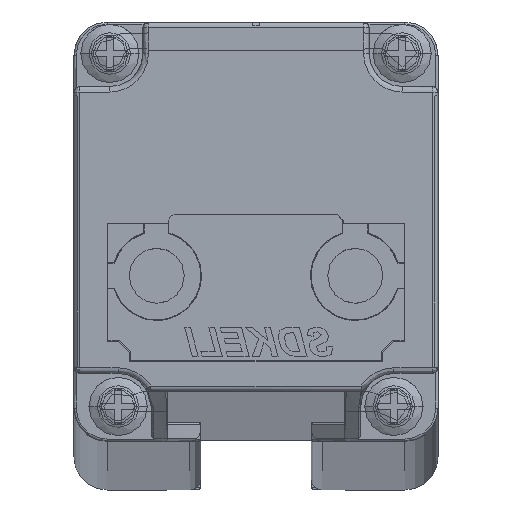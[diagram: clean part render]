
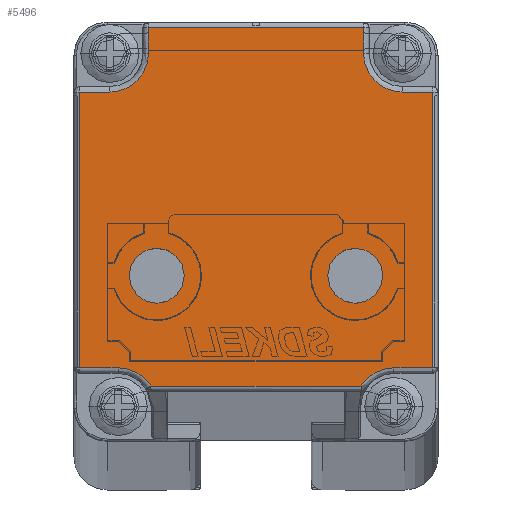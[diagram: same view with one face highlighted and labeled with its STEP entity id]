
A CAD part, top view. The second image highlights one B-rep face of the part: STEP entity #5496.
In plain terms, the highlighted planar face has unit normal (0, 0, 1).
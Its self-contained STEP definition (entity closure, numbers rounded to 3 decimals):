
#2567=CARTESIAN_POINT('',(4.,3.152,610.));
#2568=DIRECTION('',(0.,0.,1.));
#2569=DIRECTION('',(0.849,0.528,0.));
#2570=AXIS2_PLACEMENT_3D('',#2567,#2568,#2569);
#2572=CARTESIAN_POINT('',(3.25,35.15,610.));
#2573=DIRECTION('',(0.,0.,1.));
#2574=DIRECTION('',(0.,-1.,0.));
#2575=AXIS2_PLACEMENT_3D('',#2572,#2573,#2574);
#2577=CARTESIAN_POINT('',(29.75,35.15,610.));
#2578=DIRECTION('',(0.,0.,1.));
#2579=DIRECTION('',(-1.,0.,0.));
#2580=AXIS2_PLACEMENT_3D('',#2577,#2578,#2579);
#2582=CARTESIAN_POINT('',(29.,3.152,610.));
#2583=DIRECTION('',(0.,0.,1.));
#2584=DIRECTION('',(0.,1.,0.));
#2585=AXIS2_PLACEMENT_3D('',#2582,#2583,#2584);
#2587=CARTESIAN_POINT('',(7.5,15.002,610.));
#2588=DIRECTION('',(0.,0.,1.));
#2589=DIRECTION('',(1.,0.007,0.));
#2590=AXIS2_PLACEMENT_3D('',#2587,#2588,#2589);
#2592=CARTESIAN_POINT('',(7.5,15.002,610.));
#2593=DIRECTION('',(0.,0.,1.));
#2594=DIRECTION('',(-1.,-0.007,0.));
#2595=AXIS2_PLACEMENT_3D('',#2592,#2593,#2594);
#2597=CARTESIAN_POINT('',(25.5,15.,610.));
#2598=DIRECTION('',(0.,0.,1.));
#2599=DIRECTION('',(1.,-0.007,0.));
#2600=AXIS2_PLACEMENT_3D('',#2597,#2598,#2599);
#2602=CARTESIAN_POINT('',(25.5,15.,610.));
#2603=DIRECTION('',(0.,0.,1.));
#2604=DIRECTION('',(-1.,0.007,0.));
#2605=AXIS2_PLACEMENT_3D('',#2602,#2603,#2604);
#2647=DIRECTION('',(1.,0.,0.));
#2648=VECTOR('',#2647,19.056);
#2649=CARTESIAN_POINT('',(6.972,5.,610.));
#2650=LINE('',#2649,#2648);
#2972=DIRECTION('',(0.,1.,0.));
#2973=VECTOR('',#2972,2.35);
#2974=CARTESIAN_POINT('',(26.25,35.15,610.));
#2975=LINE('',#2974,#2973);
#2995=DIRECTION('',(-1.,0.,0.));
#2996=VECTOR('',#2995,19.5);
#2997=CARTESIAN_POINT('',(26.25,37.5,610.));
#2998=LINE('',#2997,#2996);
#3019=DIRECTION('',(0.,-1.,0.));
#3020=VECTOR('',#3019,2.35);
#3021=CARTESIAN_POINT('',(6.75,37.5,610.));
#3022=LINE('',#3021,#3020);
#3046=DIRECTION('',(-1.,0.,0.));
#3047=VECTOR('',#3046,2.75);
#3048=CARTESIAN_POINT('',(3.25,31.65,610.));
#3049=LINE('',#3048,#3047);
#3200=DIRECTION('',(0.,-1.,0.));
#3201=VECTOR('',#3200,24.998);
#3202=CARTESIAN_POINT('',(0.5,31.65,610.));
#3203=LINE('',#3202,#3201);
#3239=DIRECTION('',(1.,0.,0.));
#3240=VECTOR('',#3239,3.5);
#3241=CARTESIAN_POINT('',(0.5,6.652,610.));
#3242=LINE('',#3241,#3240);
#3605=DIRECTION('',(-1.,0.,0.));
#3606=VECTOR('',#3605,2.75);
#3607=CARTESIAN_POINT('',(32.5,31.65,610.));
#3608=LINE('',#3607,#3606);
#3755=DIRECTION('',(1.,0.,0.));
#3756=VECTOR('',#3755,3.5);
#3757=CARTESIAN_POINT('',(29.,6.652,610.));
#3758=LINE('',#3757,#3756);
#3790=DIRECTION('',(0.,1.,0.));
#3791=VECTOR('',#3790,24.998);
#3792=CARTESIAN_POINT('',(32.5,6.652,610.));
#3793=LINE('',#3792,#3791);
#4824=CARTESIAN_POINT('',(10.,15.018,610.));
#4825=VERTEX_POINT('',#4824);
#4826=CARTESIAN_POINT('',(5.,14.986,610.));
#4827=VERTEX_POINT('',#4826);
#4828=CARTESIAN_POINT('',(6.972,5.,610.));
#4829=CARTESIAN_POINT('',(4.,6.652,610.));
#4830=VERTEX_POINT('',#4828);
#4831=VERTEX_POINT('',#4829);
#4832=CARTESIAN_POINT('',(0.5,6.652,610.));
#4833=VERTEX_POINT('',#4832);
#4834=CARTESIAN_POINT('',(0.5,31.65,610.));
#4835=VERTEX_POINT('',#4834);
#4836=CARTESIAN_POINT('',(3.25,31.65,610.));
#4837=VERTEX_POINT('',#4836);
#4838=CARTESIAN_POINT('',(6.75,35.15,610.));
#4839=VERTEX_POINT('',#4838);
#4840=CARTESIAN_POINT('',(6.75,37.5,610.));
#4841=VERTEX_POINT('',#4840);
#4842=CARTESIAN_POINT('',(26.25,37.5,610.));
#4843=VERTEX_POINT('',#4842);
#4844=CARTESIAN_POINT('',(26.25,35.15,610.));
#4845=VERTEX_POINT('',#4844);
#4846=CARTESIAN_POINT('',(29.75,31.65,610.));
#4847=VERTEX_POINT('',#4846);
#4848=CARTESIAN_POINT('',(32.5,31.65,610.));
#4849=VERTEX_POINT('',#4848);
#4850=CARTESIAN_POINT('',(32.5,6.652,610.));
#4851=VERTEX_POINT('',#4850);
#4852=CARTESIAN_POINT('',(29.,6.652,610.));
#4853=VERTEX_POINT('',#4852);
#4854=CARTESIAN_POINT('',(26.028,5.,610.));
#4855=VERTEX_POINT('',#4854);
#4856=CARTESIAN_POINT('',(28.,14.984,610.));
#4857=CARTESIAN_POINT('',(23.,15.017,610.));
#4858=VERTEX_POINT('',#4856);
#4859=VERTEX_POINT('',#4857);
#5451=CARTESIAN_POINT('',(16.5,24.,610.));
#5452=DIRECTION('',(0.,0.,1.));
#5453=DIRECTION('',(1.,0.,0.));
#5454=AXIS2_PLACEMENT_3D('',#5451,#5452,#5453);
#5455=PLANE('',#5454);
#5457=ORIENTED_EDGE('',*,*,#5456,.T.);
#5459=ORIENTED_EDGE('',*,*,#5458,.F.);
#5461=ORIENTED_EDGE('',*,*,#5460,.F.);
#5463=ORIENTED_EDGE('',*,*,#5462,.F.);
#5465=ORIENTED_EDGE('',*,*,#5464,.T.);
#5467=ORIENTED_EDGE('',*,*,#5466,.F.);
#5469=ORIENTED_EDGE('',*,*,#5468,.F.);
#5471=ORIENTED_EDGE('',*,*,#5470,.F.);
#5473=ORIENTED_EDGE('',*,*,#5472,.T.);
#5475=ORIENTED_EDGE('',*,*,#5474,.F.);
#5477=ORIENTED_EDGE('',*,*,#5476,.F.);
#5479=ORIENTED_EDGE('',*,*,#5478,.F.);
#5481=ORIENTED_EDGE('',*,*,#5480,.T.);
#5483=ORIENTED_EDGE('',*,*,#5482,.F.);
#5484=EDGE_LOOP('',(#5457,#5459,#5461,#5463,#5465,#5467,#5469,#5471,#5473,#5475,
#5477,#5479,#5481,#5483));
#5485=FACE_OUTER_BOUND('',#5484,.F.);
#5486=ORIENTED_EDGE('',*,*,#5438,.T.);
#5487=ORIENTED_EDGE('',*,*,#5399,.T.);
#5488=EDGE_LOOP('',(#5486,#5487));
#5489=FACE_BOUND('',#5488,.F.);
#5491=ORIENTED_EDGE('',*,*,#5490,.T.);
#5493=ORIENTED_EDGE('',*,*,#5492,.T.);
#5494=EDGE_LOOP('',(#5491,#5493));
#5495=FACE_BOUND('',#5494,.F.);
#2571=CIRCLE('',#2570,3.5);
#2576=CIRCLE('',#2575,3.5);
#2581=CIRCLE('',#2580,3.5);
#2586=CIRCLE('',#2585,3.5);
#2591=CIRCLE('',#2590,2.5);
#2596=CIRCLE('',#2595,2.5);
#2601=CIRCLE('',#2600,2.5);
#2606=CIRCLE('',#2605,2.5);
#5399=EDGE_CURVE('',#4827,#4825,#2596,.T.);
#5438=EDGE_CURVE('',#4825,#4827,#2591,.T.);
#5456=EDGE_CURVE('',#4830,#4831,#2571,.T.);
#5458=EDGE_CURVE('',#4833,#4831,#3242,.T.);
#5460=EDGE_CURVE('',#4835,#4833,#3203,.T.);
#5462=EDGE_CURVE('',#4837,#4835,#3049,.T.);
#5464=EDGE_CURVE('',#4837,#4839,#2576,.T.);
#5466=EDGE_CURVE('',#4841,#4839,#3022,.T.);
#5468=EDGE_CURVE('',#4843,#4841,#2998,.T.);
#5470=EDGE_CURVE('',#4845,#4843,#2975,.T.);
#5472=EDGE_CURVE('',#4845,#4847,#2581,.T.);
#5474=EDGE_CURVE('',#4849,#4847,#3608,.T.);
#5476=EDGE_CURVE('',#4851,#4849,#3793,.T.);
#5478=EDGE_CURVE('',#4853,#4851,#3758,.T.);
#5480=EDGE_CURVE('',#4853,#4855,#2586,.T.);
#5482=EDGE_CURVE('',#4830,#4855,#2650,.T.);
#5490=EDGE_CURVE('',#4858,#4859,#2601,.T.);
#5492=EDGE_CURVE('',#4859,#4858,#2606,.T.);
#5496=ADVANCED_FACE('',(#5485,#5489,#5495),#5455,.T.);
